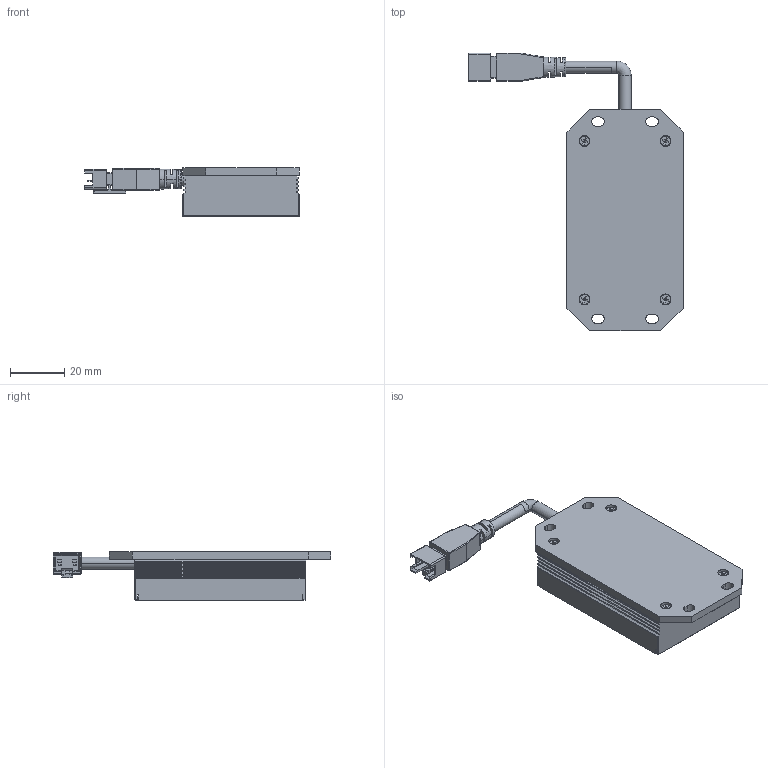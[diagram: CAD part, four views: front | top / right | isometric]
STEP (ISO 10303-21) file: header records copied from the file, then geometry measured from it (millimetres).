
FILE_DESCRIPTION((''),'2;1');
FILE_NAME('PRT0002','2022-11-04T18:23:47',('lizhoupeng'),(''),'CREO PARAMETRIC BY PTC INC, 2020044','CREO PARAMETRIC BY PTC INC, 2020044','');
FILE_SCHEMA(('CONFIG_CONTROL_DESIGN'));
Length unit declared in the file: millimetre
Products named in the file (1): PRT0002
Bounding box: 79.3 x 102.85 x 18 mm (x, y, z)
Volume: 52862 mm3; surface area: 14408.9 mm2
Topology: 1 solids, 16 shells, 711 faces, 1797 edges, 1117 vertices
Faces by surface type: plane 436, cylinder 187, cone 46, torus 26, sphere 8, bspline 8
Entity records: 21453 total; most frequent: CARTESIAN_POINT 4309, ORIENTED_EDGE 3562, DIRECTION 3555, EDGE_CURVE 1781, AXIS2_PLACEMENT_3D 1201, VECTOR 1153, LINE 1153, VERTEX_POINT 1117
